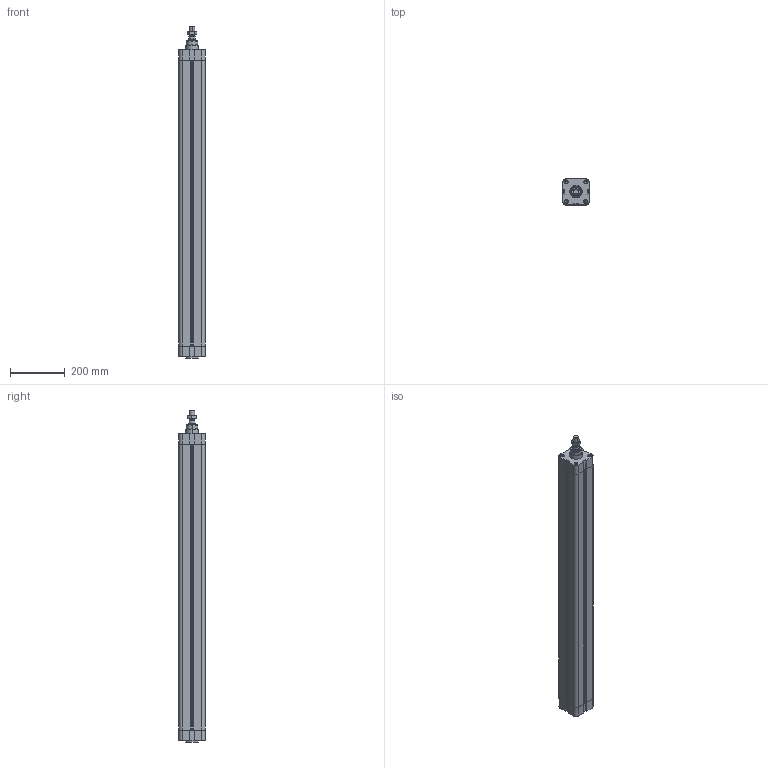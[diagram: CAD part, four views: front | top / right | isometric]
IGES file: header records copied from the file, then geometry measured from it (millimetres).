
Global section: file name: No Iges File Name specified; native system: Autodesk Inventor 2010; preprocessor: AutoDesk Inventor Iges Exporter R2010; author: rivolro1; date: 20090707.103527; units: millimetre
Bounding box: 95.5 x 95.5 x 1218 mm (x, y, z)
Volume: 5484166.5 mm3; surface area: 922395.6 mm2
Topology: 5 solids, 5 shells, 290 faces, 694 edges, 440 vertices
Faces by surface type: plane 120, bspline 74, cylinder 40, revolution 34, cone 20, torus 2
